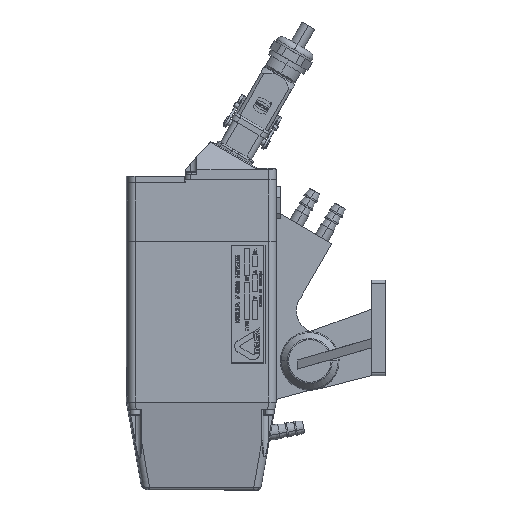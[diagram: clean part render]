
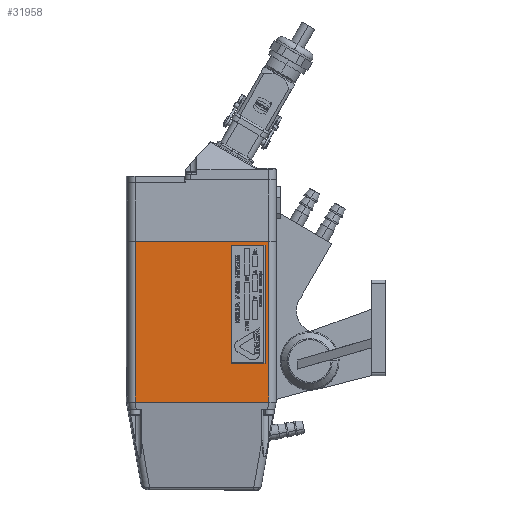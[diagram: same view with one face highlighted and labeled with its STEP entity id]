
A CAD part, left-side view. The second image highlights one B-rep face of the part: STEP entity #31958.
In plain terms, the highlighted planar face has unit normal (-1, 0, 0).
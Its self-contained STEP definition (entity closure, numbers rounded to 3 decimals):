
#625 = LINE ( 'NONE', #64634, #51758 ) ;
#976 = LINE ( 'NONE', #54352, #34361 ) ;
#1634 = CARTESIAN_POINT ( 'NONE',  ( -68.607, 60.084, 54.75 ) ) ;
#4930 = EDGE_LOOP ( 'NONE', ( #13660, #63945, #17316, #72151 ) ) ;
#4971 = VECTOR ( 'NONE', #29483, 1000. ) ;
#5312 = LINE ( 'NONE', #13409, #72089 ) ;
#9123 = VERTEX_POINT ( 'NONE', #67812 ) ;
#9871 = VERTEX_POINT ( 'NONE', #66894 ) ;
#10112 = LINE ( 'NONE', #31503, #81093 ) ;
#11279 = DIRECTION ( 'NONE',  ( 0., 0., -1. ) ) ;
#13327 = CARTESIAN_POINT ( 'NONE',  ( -68.607, -11.416, 81.25 ) ) ;
#13409 = CARTESIAN_POINT ( 'NONE',  ( -68.607, -34.416, 161.75 ) ) ;
#13660 = ORIENTED_EDGE ( 'NONE', *, *, #18904, .F. ) ;
#14379 = CARTESIAN_POINT ( 'NONE',  ( -68.607, 54.12, 54.75 ) ) ;
#15919 = CARTESIAN_POINT ( 'NONE',  ( -68.607, 60.084, 164.25 ) ) ;
#16505 = ORIENTED_EDGE ( 'NONE', *, *, #18702, .T. ) ;
#16946 = VERTEX_POINT ( 'NONE', #65569 ) ;
#17309 = DIRECTION ( 'NONE',  ( 0., -1., 0. ) ) ;
#17316 = ORIENTED_EDGE ( 'NONE', *, *, #28778, .F. ) ;
#17682 = VECTOR ( 'NONE', #48260, 1000. ) ;
#18702 = EDGE_CURVE ( 'NONE', #34710, #29735, #24858, .T. ) ;
#18904 = EDGE_CURVE ( 'NONE', #9123, #28345, #10112, .T. ) ;
#20125 = DIRECTION ( 'NONE',  ( 0., 1., 0. ) ) ;
#21127 = DIRECTION ( 'NONE',  ( 0., 0., 1. ) ) ;
#23629 = ORIENTED_EDGE ( 'NONE', *, *, #67258, .T. ) ;
#24858 = LINE ( 'NONE', #62634, #4971 ) ;
#28345 = VERTEX_POINT ( 'NONE', #13327 ) ;
#28778 = EDGE_CURVE ( 'NONE', #74498, #9871, #976, .T. ) ;
#29359 = VECTOR ( 'NONE', #17309, 1000. ) ;
#29483 = DIRECTION ( 'NONE',  ( 0., 0., 1. ) ) ;
#29735 = VERTEX_POINT ( 'NONE', #78153 ) ;
#31219 = ORIENTED_EDGE ( 'NONE', *, *, #60539, .T. ) ;
#31458 = LINE ( 'NONE', #70697, #29359 ) ;
#31503 = CARTESIAN_POINT ( 'NONE',  ( -68.607, -11.416, 161.75 ) ) ;
#31958 = ADVANCED_FACE ( 'NONE', ( #50752, #82018 ), #48844, .F. ) ;
#34361 = VECTOR ( 'NONE', #21127, 1000. ) ;
#34710 = VERTEX_POINT ( 'NONE', #84262 ) ;
#35208 = EDGE_CURVE ( 'NONE', #16946, #29735, #57521, .T. ) ;
#35755 = DIRECTION ( 'NONE',  ( 0., 1., 0. ) ) ;
#36120 = DIRECTION ( 'NONE',  ( 0., -1., 0. ) ) ;
#37752 = VECTOR ( 'NONE', #36120, 1000. ) ;
#41068 = EDGE_CURVE ( 'NONE', #9871, #9123, #5312, .T. ) ;
#43021 = ORIENTED_EDGE ( 'NONE', *, *, #35208, .F. ) ;
#46371 = EDGE_CURVE ( 'NONE', #28345, #74498, #31458, .T. ) ;
#48260 = DIRECTION ( 'NONE',  ( 0., -1., 0. ) ) ;
#48844 = PLANE ( 'NONE',  #85914 ) ;
#50752 = FACE_BOUND ( 'NONE', #4930, .T. ) ;
#51758 = VECTOR ( 'NONE', #11279, 1000. ) ;
#54352 = CARTESIAN_POINT ( 'NONE',  ( -68.607, -34.416, 161.75 ) ) ;
#55275 = VERTEX_POINT ( 'NONE', #14379 ) ;
#57521 = LINE ( 'NONE', #15919, #37752 ) ;
#60539 = EDGE_CURVE ( 'NONE', #16946, #55275, #625, .T. ) ;
#62634 = CARTESIAN_POINT ( 'NONE',  ( -68.607, -36.916, 164.25 ) ) ;
#63945 = ORIENTED_EDGE ( 'NONE', *, *, #41068, .F. ) ;
#64634 = CARTESIAN_POINT ( 'NONE',  ( -68.607, 54.12, 164.25 ) ) ;
#65569 = CARTESIAN_POINT ( 'NONE',  ( -68.607, 54.12, 164.25 ) ) ;
#66894 = CARTESIAN_POINT ( 'NONE',  ( -68.607, -34.416, 161.75 ) ) ;
#67258 = EDGE_CURVE ( 'NONE', #55275, #34710, #70926, .T. ) ;
#67812 = CARTESIAN_POINT ( 'NONE',  ( -68.607, -11.416, 161.75 ) ) ;
#68946 = CARTESIAN_POINT ( 'NONE',  ( -68.607, 60.084, 164.25 ) ) ;
#70697 = CARTESIAN_POINT ( 'NONE',  ( -68.607, -34.416, 81.25 ) ) ;
#70926 = LINE ( 'NONE', #1634, #17682 ) ;
#71124 = DIRECTION ( 'NONE',  ( 0., 0., -1. ) ) ;
#72089 = VECTOR ( 'NONE', #20125, 1000. ) ;
#72151 = ORIENTED_EDGE ( 'NONE', *, *, #46371, .F. ) ;
#74339 = CARTESIAN_POINT ( 'NONE',  ( -68.607, -34.416, 81.25 ) ) ;
#74498 = VERTEX_POINT ( 'NONE', #74339 ) ;
#75695 = DIRECTION ( 'NONE',  ( 1., 0., 0. ) ) ;
#78153 = CARTESIAN_POINT ( 'NONE',  ( -68.607, -36.916, 164.25 ) ) ;
#81093 = VECTOR ( 'NONE', #71124, 1000. ) ;
#82018 = FACE_OUTER_BOUND ( 'NONE', #86046, .T. ) ;
#84262 = CARTESIAN_POINT ( 'NONE',  ( -68.607, -36.916, 54.75 ) ) ;
#85914 = AXIS2_PLACEMENT_3D ( 'NONE', #68946, #75695, #35755 ) ;
#86046 = EDGE_LOOP ( 'NONE', ( #23629, #16505, #43021, #31219 ) ) ;
